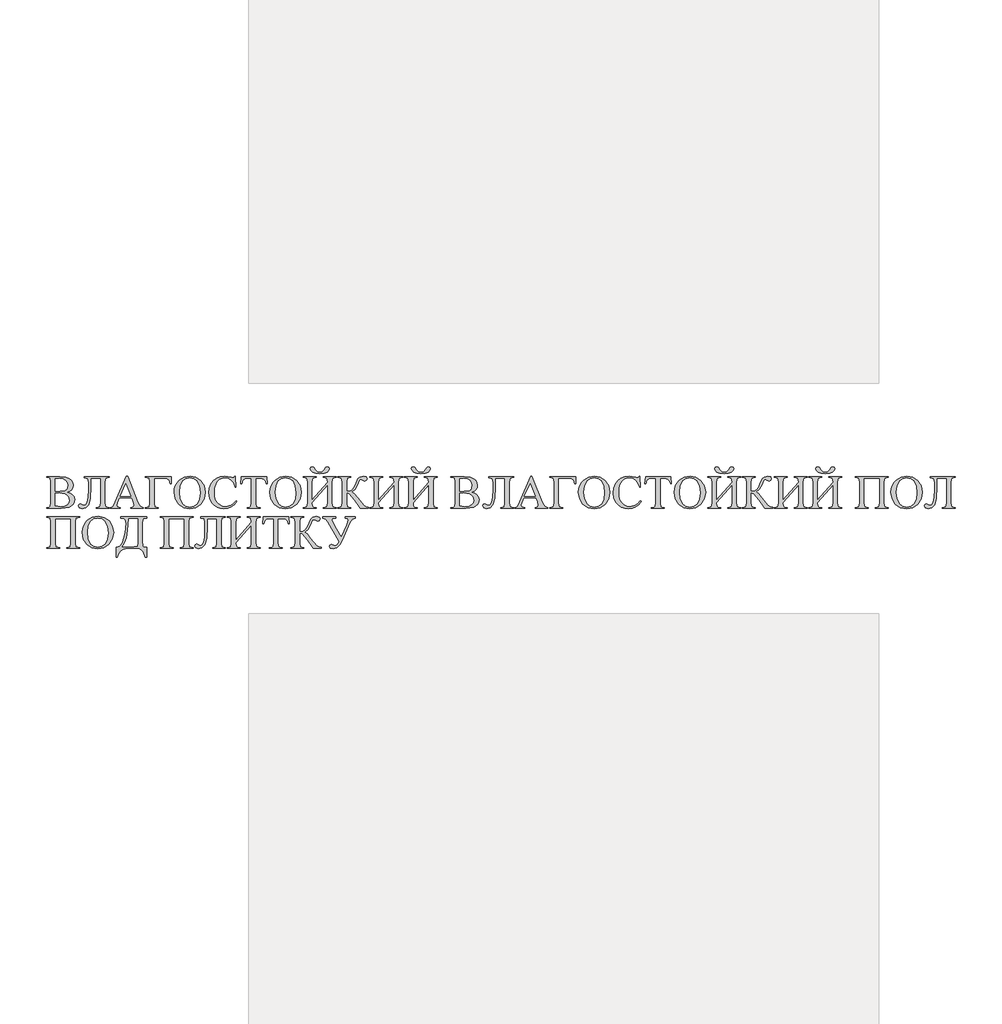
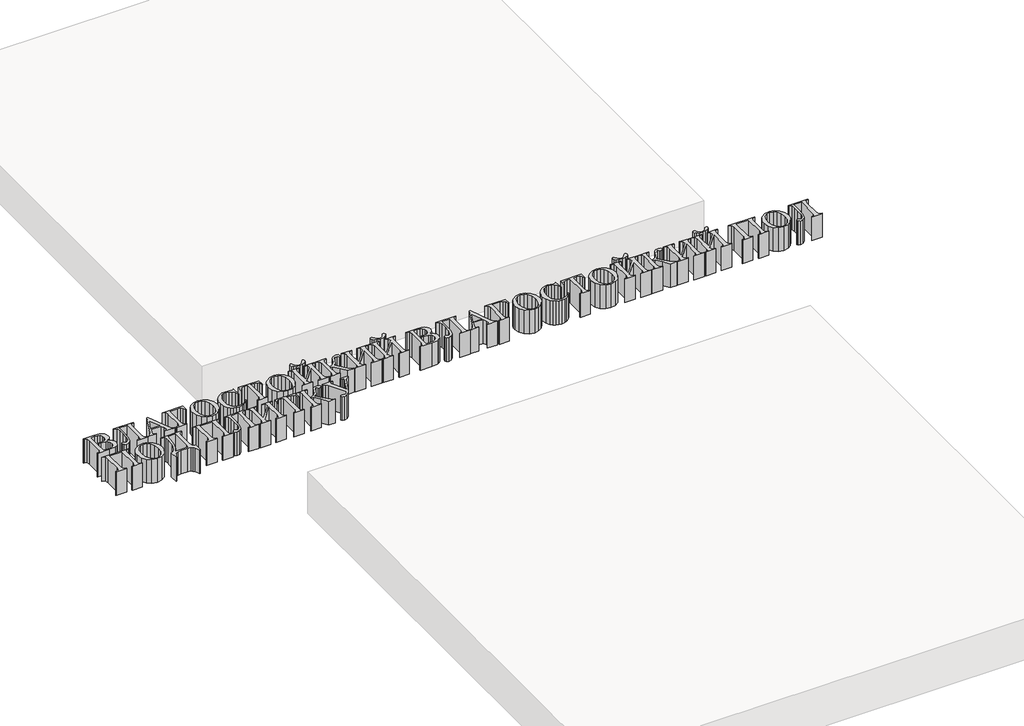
# One storey, part 7 of 17: 1 proxy.
"""IFC4 building model written with IfcOpenShell, lengths in millimetres."""

from ifc_helpers import new_model, si_unit, origin, origin_with_axes, place, context, project, spatial, polyline, outline, extrude, element, save

model = new_model("IFC4")

# Units and contexts
model_context = context("Model", 3, world=origin())
ifc_project = project(units=[si_unit("LENGTHUNIT", "METRE", prefix="MILLI")], contexts=[model_context])

# Site, building, storey
site = spatial("IfcSite", under=ifc_project)
building = spatial("IfcBuilding", under=site)
storey = spatial("IfcBuildingStorey", under=building, Name="Уровень 1", Elevation=0.0)

# Proxy
placement = place(None, origin())
element("IfcBuildingElementProxy", 1, Name="SG_Текст 2", ObjectType="SG_Текст 2", at=placement, inside=storey, context=model_context, shape_type="SweptSolid", body=[
    extrude(outline(polyline([(-8176.1512491, 9348.2843644), (-8162.4340903, 9344.0404927), (-8152.6591062, 9337.8255337), (-8144.5434558, 9326.6929129), (-8141.838239, 9313.327734), (-8143.5931101, 9302.5722345), (-8148.8577235, 9292.2692805), (-8157.1795336, 9283.5552643), (-8168.1059947, 9277.5665781), (-8205.4762015, 9272.9405568), (-8275.7112726, 9272.9405568), (-8275.7112726, 9275.5150382), (-8270.3611784, 9275.5150382), (-8262.688017, 9277.0536931), (-8257.5289976, 9281.6696578), (-8255.1154213, 9298.6853709), (-8255.1154213, 9396.5156647), (-8258.1726179, 9414.6577134), (-8270.3611784, 9419.6859974), (-8275.7112726, 9419.6859974), (-8275.7112726, 9422.2604788), (-8211.8319525, 9422.2604788), (-8183.1506205, 9419.6055449), (-8168.7194454, 9414.0392345), (-8158.1701055, 9405.3855577), (-8151.7137888, 9394.4188702), (-8149.5616833, 9381.9135279), (-8151.2461584, 9371.1630567), (-8156.2995838, 9361.5992605), (-8164.6314505, 9353.7853071), (-8176.1512491, 9348.2843644)]), holes=[polyline([(-8234.5195699, 9354.3183052), (-8225.1066223, 9353.1517434), (-8213.4812296, 9352.7494806), (-8189.0035431, 9356.2491663), (-8182.1751334, 9360.6740562), (-8178.0619971, 9366.9493547), (-8175.3064974, 9382.7180534), (-8177.8709223, 9394.9418118), (-8185.5641968, 9405.2246526), (-8198.1751331, 9412.2089391), (-8215.4925432, 9414.5370346), (-8234.5195699, 9412.083232), (-8234.5195699, 9354.3183052)]), polyline([(-8234.5195699, 9283.6005189), (-8208.9758872, 9280.664001), (-8191.18079, 9282.8814743), (-8178.1826759, 9289.533894), (-8170.2329588, 9299.4446418), (-8167.5830532, 9311.4370992), (-8172.430319, 9327.9499839), (-8178.7659568, 9335.0499209), (-8188.0783388, 9340.4603545), (-8214.8086966, 9345.0260364), (-8226.6151075, 9344.8047919), (-8234.5195699, 9344.0606059), (-8234.5195699, 9283.6005189)])]), origin_with_axes(), (0.0, 0.0, 1.0), 150.0),
    extrude(outline(polyline([(-8018.2631311, 9414.5370346), (-8064.6037966, 9414.5370346), (-8064.6037966, 9372.3396751), (-8067.3894659, 9319.6684001), (-8075.746474, 9289.4132152), (-8089.0010306, 9275.1278603), (-8106.4793459, 9270.3660754), (-8119.3115267, 9274.3484763), (-8123.8168691, 9283.6005189), (-8120.9205775, 9290.5797771), (-8113.8809799, 9293.5364081), (-8105.9564043, 9289.8758173), (-8096.9054931, 9285.8129639), (-8088.0707981, 9289.8104497), (-8081.0362287, 9301.802907), (-8076.4353489, 9324.9480983), (-8074.9017223, 9362.4037859), (-8074.9017223, 9393.8607307), (-8078.5824261, 9412.6866261), (-8095.4975736, 9417.111516), (-8095.4975736, 9422.2604788), (-7977.0714285, 9422.2604788), (-7977.0714285, 9419.6859974), (-7993.9865759, 9415.2812206), (-7997.6672798, 9396.5156647), (-7997.6672798, 9298.6853709), (-7993.9865759, 9279.919815), (-7977.0714285, 9275.5150382), (-7977.0714285, 9272.9405568), (-8038.8589824, 9272.9405568), (-8038.8589824, 9275.5150382), (-8021.943835, 9279.919815), (-8018.2631311, 9298.6853709), (-8018.2631311, 9414.5370346)])), origin_with_axes(), (0.0, 0.0, 1.0), 150.0),
    extrude(outline(polyline([(-7870.5924863, 9321.8557037), (-7928.8401283, 9321.8557037), (-7938.4542073, 9299.4898964), (-7942.1952506, 9285.5716062), (-7938.9369226, 9279.1354027), (-7924.8577273, 9275.5150382), (-7924.8577273, 9272.9405568), (-7972.3247284, 9272.9405568), (-7972.3247284, 9275.5150382), (-7960.1763942, 9280.1812858), (-7947.6660236, 9303.5527499), (-7895.2914173, 9424.8349602), (-7889.780418, 9424.8349602), (-7840.6239135, 9301.5816625), (-7829.159426, 9280.8651324), (-7814.8388731, 9275.5150382), (-7814.8388731, 9272.9405568), (-7873.8508143, 9272.9405568), (-7873.8508143, 9275.5150382), (-7861.7628195, 9278.8337057), (-7858.6050572, 9285.7325113), (-7863.0299471, 9302.8689032), (-7870.5924863, 9321.8557037)]), holes=[polyline([(-7873.6899092, 9329.5791479), (-7898.5497454, 9390.20014), (-7925.5013477, 9329.5791479), (-7873.6899092, 9329.5791479)])]), origin_with_axes(), (0.0, 0.0, 1.0), 150.0),
    extrude(outline(polyline([(-7681.6496862, 9422.2604788), (-7681.0060658, 9388.7922204), (-7686.1550287, 9388.7922204), (-7690.9218419, 9405.1039738), (-7701.4007858, 9412.8877574), (-7719.3417032, 9414.5370346), (-7763.3894711, 9414.5370346), (-7763.3894711, 9298.6853709), (-7759.7288803, 9279.919815), (-7742.7936198, 9275.5150382), (-7742.7936198, 9272.9405568), (-7804.5811737, 9272.9405568), (-7804.5811737, 9275.5150382), (-7787.6660263, 9279.919815), (-7783.9853224, 9298.6853709), (-7783.9853224, 9396.5156647), (-7787.6660263, 9415.2812206), (-7804.5811737, 9419.6859974), (-7804.5811737, 9422.2604788), (-7681.6496862, 9422.2604788)])), origin_with_axes(), (0.0, 0.0, 1.0), 150.0),
    extrude(outline(polyline([(-7592.025552, 9424.8349602), (-7564.319707, 9419.3742438), (-7540.5761499, 9402.9920945), (-7524.25434, 9378.4440119), (-7518.8137367, 9348.4854958), (-7524.2945663, 9317.6771996), (-7540.737055, 9292.5910907), (-7564.9633274, 9275.9223292), (-7593.7955079, 9270.3660754), (-7622.7735087, 9275.7865655), (-7646.7131689, 9292.048036), (-7662.7785363, 9316.9179288), (-7668.1336588, 9348.1636856), (-7666.5874614, 9364.9355269), (-7661.9488694, 9380.0932891), (-7654.2178828, 9393.6369721), (-7643.3945014, 9405.5665759), (-7619.8118494, 9420.0178642), (-7592.025552, 9424.8349602)]), holes=[polyline([(-7594.1575444, 9417.111516), (-7612.6012901, 9413.4308121), (-7626.9821824, 9402.3887004), (-7638.5371791, 9379.7915921), (-7642.3888446, 9348.6866272), (-7638.3963871, 9316.6464014), (-7626.4190146, 9292.933014), (-7612.1889708, 9281.8003932), (-7594.0368656, 9278.0895196), (-7574.4265579, 9282.1523731), (-7558.5572936, 9294.3409335), (-7548.0582365, 9315.2887647), (-7544.5585509, 9345.6294305), (-7548.4102164, 9378.7758787), (-7559.9652131, 9402.2680216), (-7574.6880287, 9413.4006424), (-7594.1575444, 9417.111516)])]), origin_with_axes(), (0.0, 0.0, 1.0), 150.0),
    extrude(outline(polyline([(-7377.2172589, 9424.8349602), (-7374.6427775, 9373.345332), (-7377.2172589, 9373.345332), (-7385.327881, 9393.3729872), (-7396.304625, 9406.8739297), (-7409.9463596, 9414.5521194), (-7426.0519533, 9417.111516), (-7439.9149323, 9415.2560792), (-7452.3800484, 9409.6897688), (-7462.8891619, 9400.0555766), (-7470.8841335, 9385.9964945), (-7475.937559, 9367.7387953), (-7477.6220341, 9345.5087517), (-7476.0180115, 9326.8839877), (-7471.2059437, 9310.9141577), (-7463.1657176, 9297.9814112), (-7451.87722, 9288.4678978), (-7438.0594955, 9282.6149752), (-7422.4315888, 9280.664001), (-7397.0689242, 9286.3560185), (-7385.5290124, 9294.8588468), (-7372.9130478, 9308.9832966), (-7369.4938147, 9306.4088152), (-7381.6069509, 9290.2127124), (-7395.5805522, 9279.034837), (-7411.8872772, 9272.5332658), (-7430.9997847, 9270.3660754), (-7448.4403878, 9272.0681495), (-7463.7942531, 9277.1743719), (-7477.0613804, 9285.6847426), (-7488.2417699, 9297.5992616), (-7499.5855787, 9319.6633718), (-7503.3668482, 9345.3076203), (-7500.8677911, 9366.5320071), (-7493.3706196, 9385.9562683), (-7481.4887845, 9402.3937287), (-7465.8357364, 9414.6577134), (-7447.4824997, 9422.2906485), (-7427.5000991, 9424.8349602), (-7395.6408916, 9418.9216982), (-7389.0437829, 9417.111516), (-7383.8545938, 9418.6803406), (-7379.7917404, 9424.8349602), (-7377.2172589, 9424.8349602)])), origin_with_axes(), (0.0, 0.0, 1.0), 150.0),
    extrude(outline(polyline([(-7227.8973369, 9422.2604788), (-7225.3228555, 9388.7922204), (-7229.5063878, 9388.7922204), (-7232.9256209, 9402.0668902), (-7242.2782292, 9411.499951), (-7257.7050045, 9414.5370346), (-7279.3869652, 9414.5370346), (-7279.3869652, 9298.6853709), (-7276.4906736, 9280.4226434), (-7263.8596242, 9275.5150382), (-7258.7911139, 9275.5150382), (-7258.7911139, 9272.9405568), (-7320.5786678, 9272.9405568), (-7320.5786678, 9275.5150382), (-7315.429705, 9275.5150382), (-7307.5554122, 9277.03358), (-7302.3561666, 9281.5892053), (-7299.9828165, 9298.6853709), (-7299.9828165, 9414.5370346), (-7317.8432813, 9414.5370346), (-7332.6465494, 9413.0084362), (-7342.4215336, 9404.9430687), (-7347.2486862, 9388.7922204), (-7351.4724448, 9388.7922204), (-7348.8979634, 9422.2604788), (-7227.8973369, 9422.2604788)])), origin_with_axes(), (0.0, 0.0, 1.0), 150.0),
    extrude(outline(polyline([(-7136.3423416, 9424.8349602), (-7108.6364967, 9419.3742438), (-7084.8929396, 9402.9920945), (-7068.5711297, 9378.4440119), (-7063.1305264, 9348.4854958), (-7068.6113559, 9317.6771996), (-7085.0538447, 9292.5910907), (-7109.280117, 9275.9223292), (-7138.1122976, 9270.3660754), (-7167.0902983, 9275.7865655), (-7191.0299585, 9292.048036), (-7207.0953259, 9316.9179288), (-7212.4504484, 9348.1636856), (-7210.9042511, 9364.9355269), (-7206.2656591, 9380.0932891), (-7198.5346724, 9393.6369721), (-7187.7112911, 9405.5665759), (-7164.1286391, 9420.0178642), (-7136.3423416, 9424.8349602)]), holes=[polyline([(-7138.474334, 9417.111516), (-7156.9180798, 9413.4308121), (-7171.2989721, 9402.3887004), (-7182.8539687, 9379.7915921), (-7186.7056343, 9348.6866272), (-7182.7131768, 9316.6464014), (-7170.7358042, 9292.933014), (-7156.5057605, 9281.8003932), (-7138.3536552, 9278.0895196), (-7118.7433476, 9282.1523731), (-7102.8740832, 9294.3409335), (-7092.3750262, 9315.2887647), (-7088.8753405, 9345.6294305), (-7092.7270061, 9378.7758787), (-7104.2820027, 9402.2680216), (-7119.0048183, 9413.4006424), (-7138.474334, 9417.111516)])]), origin_with_axes(), (0.0, 0.0, 1.0), 150.0),
    extrude(outline(polyline([(-6938.1877252, 9471.1756257), (-6931.8923136, 9468.2793341), (-6929.2574928, 9461.4408679), (-6931.9576813, 9452.3899566), (-6940.0582469, 9444.7067387), (-6954.0217916, 9439.4572101), (-6974.3109176, 9437.7073673), (-6994.6754678, 9439.4572101), (-7008.6239277, 9444.7067387), (-7016.6792387, 9452.3899566), (-7019.3643423, 9461.4408679), (-7016.7898609, 9468.2189947), (-7010.3134311, 9471.1756257), (-7003.6962093, 9468.4201261), (-6995.9124257, 9456.2516788), (-6986.9922499, 9446.2051673), (-6974.3109176, 9442.8563301), (-6961.6899247, 9446.2051673), (-6952.7094095, 9456.2516788), (-6945.106644, 9468.4804655), (-6938.1877252, 9471.1756257)])), origin_with_axes(), (0.0, 0.0, 1.0), 150.0),
    extrude(outline(polyline([(-6936.9809371, 9396.5156647), (-6941.0639037, 9415.6633702), (-6957.5767884, 9419.6859974), (-6957.5767884, 9422.2604788), (-6895.7892344, 9422.2604788), (-6895.7892344, 9419.6859974), (-6912.7043819, 9415.2812206), (-6916.3850857, 9396.5156647), (-6916.3850857, 9298.6853709), (-6912.7043819, 9279.919815), (-6895.7892344, 9275.5150382), (-6895.7892344, 9272.9405568), (-6957.5767884, 9272.9405568), (-6957.5767884, 9275.5150382), (-6940.6013016, 9279.9801544), (-6936.9809371, 9298.6853709), (-6936.9809371, 9383.6432576), (-7011.6408981, 9298.6853709), (-7010.4341099, 9283.8619897), (-7005.3253734, 9277.9286145), (-6991.0450468, 9275.5150382), (-6991.0450468, 9272.9405568), (-7052.8326007, 9272.9405568), (-7052.8326007, 9275.5150382), (-7035.9174533, 9279.919815), (-7032.2367494, 9298.6853709), (-7032.2367494, 9396.5156647), (-7035.9174533, 9415.2812206), (-7052.8326007, 9419.6859974), (-7052.8326007, 9422.2604788), (-6991.0450468, 9422.2604788), (-6991.0450468, 9419.6859974), (-7007.9803073, 9415.2812206), (-7011.6408981, 9396.5156647), (-7011.6408981, 9311.557778), (-6936.9809371, 9396.5156647)])), origin_with_axes(), (0.0, 0.0, 1.0), 150.0),
    extrude(outline(polyline([(-6742.6880428, 9277.0436365), (-6742.6880428, 9272.9405568), (-6781.6673005, 9272.9405568), (-6808.4579977, 9310.7733657), (-6833.3580601, 9341.7475952), (-6846.8740876, 9345.0260364), (-6846.8740876, 9298.6853709), (-6843.2537231, 9279.919815), (-6826.2782362, 9275.5150382), (-6826.2782362, 9272.9405568), (-6888.0657902, 9272.9405568), (-6888.0657902, 9275.5150382), (-6871.190869, 9279.8795887), (-6867.4699389, 9298.6853709), (-6867.4699389, 9396.5156647), (-6871.1506428, 9415.2812206), (-6888.0657902, 9419.6859974), (-6888.0657902, 9422.2604788), (-6826.2782362, 9422.2604788), (-6826.2782362, 9419.6859974), (-6843.2537231, 9415.2812206), (-6846.8740876, 9396.5156647), (-6846.8740876, 9352.7494806), (-6829.9991664, 9354.3786447), (-6819.4598831, 9361.2975635), (-6810.1877274, 9372.9430692), (-6801.4184001, 9393.458468), (-6793.2122406, 9412.083232), (-6782.9947675, 9421.0738038), (-6766.2606383, 9424.8349602), (-6753.3480049, 9421.7375373), (-6749.0437938, 9412.4452684), (-6752.4429138, 9404.8827293), (-6760.2266975, 9401.6646275), (-6770.7257545, 9405.727481), (-6779.7364394, 9409.3880718), (-6785.8910591, 9405.6470284), (-6794.0569923, 9386.5797755), (-6806.2455527, 9363.1982548), (-6821.4108573, 9350.2554518), (-6810.7106689, 9341.4660113), (-6794.7810652, 9321.6947986), (-6765.6974705, 9286.134774), (-6755.2386397, 9279.4572129), (-6742.6880428, 9277.0436365)])), origin_with_axes(), (0.0, 0.0, 1.0), 150.0),
    extrude(outline(polyline([(-6620.3197231, 9396.5156647), (-6624.4026897, 9415.6633702), (-6640.9155744, 9419.6859974), (-6640.9155744, 9422.2604788), (-6579.1280205, 9422.2604788), (-6579.1280205, 9419.6859974), (-6596.0431679, 9415.2812206), (-6599.7238718, 9396.5156647), (-6599.7238718, 9298.6853709), (-6596.0431679, 9279.919815), (-6579.1280205, 9275.5150382), (-6579.1280205, 9272.9405568), (-6640.9155744, 9272.9405568), (-6640.9155744, 9275.5150382), (-6623.9400876, 9279.9801544), (-6620.3197231, 9298.6853709), (-6620.3197231, 9383.6432576), (-6694.9796841, 9298.6853709), (-6693.7728959, 9283.8619897), (-6688.6641594, 9277.9286145), (-6674.3838328, 9275.5150382), (-6674.3838328, 9272.9405568), (-6736.1713867, 9272.9405568), (-6736.1713867, 9275.5150382), (-6719.2562393, 9279.919815), (-6715.5755354, 9298.6853709), (-6715.5755354, 9396.5156647), (-6719.2562393, 9415.2812206), (-6736.1713867, 9419.6859974), (-6736.1713867, 9422.2604788), (-6674.3838328, 9422.2604788), (-6674.3838328, 9419.6859974), (-6691.3190933, 9415.2812206), (-6694.9796841, 9396.5156647), (-6694.9796841, 9311.557778), (-6620.3197231, 9396.5156647)])), origin_with_axes(), (0.0, 0.0, 1.0), 150.0),
    extrude(outline(polyline([(-6456.7597007, 9471.1756257), (-6450.4642891, 9468.2793341), (-6447.8294683, 9461.4408679), (-6450.5296568, 9452.3899566), (-6458.6302224, 9444.7067387), (-6472.5937671, 9439.4572101), (-6492.8828931, 9437.7073673), (-6513.2474433, 9439.4572101), (-6527.1959032, 9444.7067387), (-6535.2512142, 9452.3899566), (-6537.9363178, 9461.4408679), (-6535.3618364, 9468.2189947), (-6528.8854066, 9471.1756257), (-6522.2681848, 9468.4201261), (-6514.4844012, 9456.2516788), (-6505.5642254, 9446.2051673), (-6492.8828931, 9442.8563301), (-6480.2619002, 9446.2051673), (-6471.281385, 9456.2516788), (-6463.6786195, 9468.4804655), (-6456.7597007, 9471.1756257)])), origin_with_axes(), (0.0, 0.0, 1.0), 150.0),
    extrude(outline(polyline([(-6455.5529126, 9396.5156647), (-6459.6358792, 9415.6633702), (-6476.1487639, 9419.6859974), (-6476.1487639, 9422.2604788), (-6414.3612099, 9422.2604788), (-6414.3612099, 9419.6859974), (-6431.2763573, 9415.2812206), (-6434.9570612, 9396.5156647), (-6434.9570612, 9298.6853709), (-6431.2763573, 9279.919815), (-6414.3612099, 9275.5150382), (-6414.3612099, 9272.9405568), (-6476.1487639, 9272.9405568), (-6476.1487639, 9275.5150382), (-6459.1732771, 9279.9801544), (-6455.5529126, 9298.6853709), (-6455.5529126, 9383.6432576), (-6530.2128736, 9298.6853709), (-6529.0060854, 9283.8619897), (-6523.8973489, 9277.9286145), (-6509.6170223, 9275.5150382), (-6509.6170223, 9272.9405568), (-6571.4045762, 9272.9405568), (-6571.4045762, 9275.5150382), (-6554.4894288, 9279.919815), (-6550.8087249, 9298.6853709), (-6550.8087249, 9396.5156647), (-6554.4894288, 9415.2812206), (-6571.4045762, 9419.6859974), (-6571.4045762, 9422.2604788), (-6509.6170223, 9422.2604788), (-6509.6170223, 9419.6859974), (-6526.5522828, 9415.2812206), (-6530.2128736, 9396.5156647), (-6530.2128736, 9311.557778), (-6455.5529126, 9396.5156647)])), origin_with_axes(), (0.0, 0.0, 1.0), 150.0),
    extrude(outline(polyline([(-6250.4391511, 9348.2843644), (-6236.7219923, 9344.0404927), (-6226.9470082, 9337.8255337), (-6218.8313578, 9326.6929129), (-6216.126141, 9313.327734), (-6217.8810121, 9302.5722345), (-6223.1456255, 9292.2692805), (-6231.4674355, 9283.5552643), (-6242.3938967, 9277.5665781), (-6279.7641035, 9272.9405568), (-6349.9991746, 9272.9405568), (-6349.9991746, 9275.5150382), (-6344.6490804, 9275.5150382), (-6336.975919, 9277.0536931), (-6331.8168996, 9281.6696578), (-6329.4033233, 9298.6853709), (-6329.4033233, 9396.5156647), (-6332.4605199, 9414.6577134), (-6344.6490804, 9419.6859974), (-6349.9991746, 9419.6859974), (-6349.9991746, 9422.2604788), (-6286.1198545, 9422.2604788), (-6257.4385225, 9419.6055449), (-6243.0073474, 9414.0392345), (-6232.4580075, 9405.3855577), (-6226.0016908, 9394.4188702), (-6223.8495853, 9381.9135279), (-6225.5340604, 9371.1630567), (-6230.5874858, 9361.5992605), (-6238.9193524, 9353.7853071), (-6250.4391511, 9348.2843644)]), holes=[polyline([(-6308.8074719, 9354.3183052), (-6299.3945243, 9353.1517434), (-6287.7691316, 9352.7494806), (-6263.2914451, 9356.2491663), (-6256.4630354, 9360.6740562), (-6252.349899, 9366.9493547), (-6249.5943994, 9382.7180534), (-6252.1588243, 9394.9418118), (-6259.8520988, 9405.2246526), (-6272.4630351, 9412.2089391), (-6289.7804452, 9414.5370346), (-6308.8074719, 9412.083232), (-6308.8074719, 9354.3183052)]), polyline([(-6308.8074719, 9283.6005189), (-6283.2637892, 9280.664001), (-6265.468692, 9282.8814743), (-6252.4705779, 9289.533894), (-6244.5208608, 9299.4446418), (-6241.8709552, 9311.4370992), (-6246.718221, 9327.9499839), (-6253.0538588, 9335.0499209), (-6262.3662408, 9340.4603545), (-6289.0965986, 9345.0260364), (-6300.9030095, 9344.8047919), (-6308.8074719, 9344.0606059), (-6308.8074719, 9283.6005189)])]), origin_with_axes(), (0.0, 0.0, 1.0), 150.0),
    extrude(outline(polyline([(-6092.5510331, 9414.5370346), (-6138.8916986, 9414.5370346), (-6138.8916986, 9372.3396751), (-6141.6773679, 9319.6684001), (-6150.034376, 9289.4132152), (-6163.2889326, 9275.1278603), (-6180.7672478, 9270.3660754), (-6193.5994286, 9274.3484763), (-6198.1047711, 9283.6005189), (-6195.2084795, 9290.5797771), (-6188.1688819, 9293.5364081), (-6180.2443063, 9289.8758173), (-6171.1933951, 9285.8129639), (-6162.3587001, 9289.8104497), (-6155.3241307, 9301.802907), (-6150.7232509, 9324.9480983), (-6149.1896242, 9362.4037859), (-6149.1896242, 9393.8607307), (-6152.8703281, 9412.6866261), (-6169.7854756, 9417.111516), (-6169.7854756, 9422.2604788), (-6051.3593305, 9422.2604788), (-6051.3593305, 9419.6859974), (-6068.2744779, 9415.2812206), (-6071.9551818, 9396.5156647), (-6071.9551818, 9298.6853709), (-6068.2744779, 9279.919815), (-6051.3593305, 9275.5150382), (-6051.3593305, 9272.9405568), (-6113.1468844, 9272.9405568), (-6113.1468844, 9275.5150382), (-6096.231737, 9279.919815), (-6092.5510331, 9298.6853709), (-6092.5510331, 9414.5370346)])), origin_with_axes(), (0.0, 0.0, 1.0), 150.0),
    extrude(outline(polyline([(-5944.8803882, 9321.8557037), (-6003.1280302, 9321.8557037), (-6012.7421093, 9299.4898964), (-6016.4831526, 9285.5716062), (-6013.2248245, 9279.1354027), (-5999.1456293, 9275.5150382), (-5999.1456293, 9272.9405568), (-6046.6126304, 9272.9405568), (-6046.6126304, 9275.5150382), (-6034.4642962, 9280.1812858), (-6021.9539256, 9303.5527499), (-5969.5793193, 9424.8349602), (-5964.06832, 9424.8349602), (-5914.9118155, 9301.5816625), (-5903.447328, 9280.8651324), (-5889.1267751, 9275.5150382), (-5889.1267751, 9272.9405568), (-5948.1387163, 9272.9405568), (-5948.1387163, 9275.5150382), (-5936.0507215, 9278.8337057), (-5932.8929592, 9285.7325113), (-5937.3178491, 9302.8689032), (-5944.8803882, 9321.8557037)]), holes=[polyline([(-5947.9778112, 9329.5791479), (-5972.8376474, 9390.20014), (-5999.7892497, 9329.5791479), (-5947.9778112, 9329.5791479)])]), origin_with_axes(), (0.0, 0.0, 1.0), 150.0),
    extrude(outline(polyline([(-5755.9375882, 9422.2604788), (-5755.2939678, 9388.7922204), (-5760.4429307, 9388.7922204), (-5765.2097439, 9405.1039738), (-5775.6886878, 9412.8877574), (-5793.6296051, 9414.5370346), (-5837.6773731, 9414.5370346), (-5837.6773731, 9298.6853709), (-5834.0167823, 9279.919815), (-5817.0815218, 9275.5150382), (-5817.0815218, 9272.9405568), (-5878.8690757, 9272.9405568), (-5878.8690757, 9275.5150382), (-5861.9539283, 9279.919815), (-5858.2732244, 9298.6853709), (-5858.2732244, 9396.5156647), (-5861.9539283, 9415.2812206), (-5878.8690757, 9419.6859974), (-5878.8690757, 9422.2604788), (-5755.9375882, 9422.2604788)])), origin_with_axes(), (0.0, 0.0, 1.0), 150.0),
    extrude(outline(polyline([(-5666.3134539, 9424.8349602), (-5638.607609, 9419.3742438), (-5614.8640519, 9402.9920945), (-5598.542242, 9378.4440119), (-5593.1016387, 9348.4854958), (-5598.5824683, 9317.6771996), (-5615.024957, 9292.5910907), (-5639.2512294, 9275.9223292), (-5668.0834099, 9270.3660754), (-5697.0614107, 9275.7865655), (-5721.0010709, 9292.048036), (-5737.0664383, 9316.9179288), (-5742.4215608, 9348.1636856), (-5740.8753634, 9364.9355269), (-5736.2367714, 9380.0932891), (-5728.5057848, 9393.6369721), (-5717.6824034, 9405.5665759), (-5694.0997514, 9420.0178642), (-5666.3134539, 9424.8349602)]), holes=[polyline([(-5668.4454464, 9417.111516), (-5686.8891921, 9413.4308121), (-5701.2700844, 9402.3887004), (-5712.8250811, 9379.7915921), (-5716.6767466, 9348.6866272), (-5712.6842891, 9316.6464014), (-5700.7069166, 9292.933014), (-5686.4768728, 9281.8003932), (-5668.3247676, 9278.0895196), (-5648.7144599, 9282.1523731), (-5632.8451956, 9294.3409335), (-5622.3461385, 9315.2887647), (-5618.8464529, 9345.6294305), (-5622.6981184, 9378.7758787), (-5634.2531151, 9402.2680216), (-5648.9759307, 9413.4006424), (-5668.4454464, 9417.111516)])]), origin_with_axes(), (0.0, 0.0, 1.0), 150.0),
    extrude(outline(polyline([(-5451.5051609, 9424.8349602), (-5448.9306795, 9373.345332), (-5451.5051609, 9373.345332), (-5459.615783, 9393.3729872), (-5470.592527, 9406.8739297), (-5484.2342616, 9414.5521194), (-5500.3398553, 9417.111516), (-5514.2028343, 9415.2560792), (-5526.6679503, 9409.6897688), (-5537.1770639, 9400.0555766), (-5545.1720355, 9385.9964945), (-5550.2254609, 9367.7387953), (-5551.9099361, 9345.5087517), (-5550.3059135, 9326.8839877), (-5545.4938457, 9310.9141577), (-5537.4536196, 9297.9814112), (-5526.1651219, 9288.4678978), (-5512.3473975, 9282.6149752), (-5496.7194908, 9280.664001), (-5471.3568262, 9286.3560185), (-5459.8169144, 9294.8588468), (-5447.2009498, 9308.9832966), (-5443.7817167, 9306.4088152), (-5455.8948529, 9290.2127124), (-5469.8684541, 9279.034837), (-5486.1751792, 9272.5332658), (-5505.2876867, 9270.3660754), (-5522.7282898, 9272.0681495), (-5538.0821551, 9277.1743719), (-5551.3492824, 9285.6847426), (-5562.5296719, 9297.5992616), (-5573.8734807, 9319.6633718), (-5577.6547502, 9345.3076203), (-5575.1556931, 9366.5320071), (-5567.6585216, 9385.9562683), (-5555.7766865, 9402.3937287), (-5540.1236384, 9414.6577134), (-5521.7704017, 9422.2906485), (-5501.7880011, 9424.8349602), (-5469.9287935, 9418.9216982), (-5463.3316849, 9417.111516), (-5458.1424958, 9418.6803406), (-5454.0796423, 9424.8349602), (-5451.5051609, 9424.8349602)])), origin_with_axes(), (0.0, 0.0, 1.0), 150.0),
    extrude(outline(polyline([(-5302.1852389, 9422.2604788), (-5299.6107575, 9388.7922204), (-5303.7942898, 9388.7922204), (-5307.2135229, 9402.0668902), (-5316.5661312, 9411.499951), (-5331.9929065, 9414.5370346), (-5353.6748672, 9414.5370346), (-5353.6748672, 9298.6853709), (-5350.7785756, 9280.4226434), (-5338.1475261, 9275.5150382), (-5333.0790159, 9275.5150382), (-5333.0790159, 9272.9405568), (-5394.8665698, 9272.9405568), (-5394.8665698, 9275.5150382), (-5389.717607, 9275.5150382), (-5381.8433142, 9277.03358), (-5376.6440685, 9281.5892053), (-5374.2707185, 9298.6853709), (-5374.2707185, 9414.5370346), (-5392.1311833, 9414.5370346), (-5406.9344514, 9413.0084362), (-5416.7094356, 9404.9430687), (-5421.5365882, 9388.7922204), (-5425.7603468, 9388.7922204), (-5423.1858654, 9422.2604788), (-5302.1852389, 9422.2604788)])), origin_with_axes(), (0.0, 0.0, 1.0), 150.0),
    extrude(outline(polyline([(-5210.6302436, 9424.8349602), (-5182.9243987, 9419.3742438), (-5159.1808416, 9402.9920945), (-5142.8590317, 9378.4440119), (-5137.4184284, 9348.4854958), (-5142.8992579, 9317.6771996), (-5159.3417467, 9292.5910907), (-5183.568019, 9275.9223292), (-5212.4001996, 9270.3660754), (-5241.3782003, 9275.7865655), (-5265.3178605, 9292.048036), (-5281.3832279, 9316.9179288), (-5286.7383504, 9348.1636856), (-5285.1921531, 9364.9355269), (-5280.5535611, 9380.0932891), (-5272.8225744, 9393.6369721), (-5261.9991931, 9405.5665759), (-5238.416541, 9420.0178642), (-5210.6302436, 9424.8349602)]), holes=[polyline([(-5212.762236, 9417.111516), (-5231.2059818, 9413.4308121), (-5245.586874, 9402.3887004), (-5257.1418707, 9379.7915921), (-5260.9935363, 9348.6866272), (-5257.0010788, 9316.6464014), (-5245.0237062, 9292.933014), (-5230.7936625, 9281.8003932), (-5212.6415572, 9278.0895196), (-5193.0312495, 9282.1523731), (-5177.1619852, 9294.3409335), (-5166.6629282, 9315.2887647), (-5163.1632425, 9345.6294305), (-5167.0149081, 9378.7758787), (-5178.5699047, 9402.2680216), (-5193.2927203, 9413.4006424), (-5212.762236, 9417.111516)])]), origin_with_axes(), (0.0, 0.0, 1.0), 150.0),
    extrude(outline(polyline([(-5012.4756272, 9471.1756257), (-5006.1802156, 9468.2793341), (-5003.5453948, 9461.4408679), (-5006.2455833, 9452.3899566), (-5014.3461489, 9444.7067387), (-5028.3096936, 9439.4572101), (-5048.5988196, 9437.7073673), (-5068.9633698, 9439.4572101), (-5082.9118297, 9444.7067387), (-5090.9671407, 9452.3899566), (-5093.6522443, 9461.4408679), (-5091.0777629, 9468.2189947), (-5084.6013331, 9471.1756257), (-5077.9841113, 9468.4201261), (-5070.2003277, 9456.2516788), (-5061.2801518, 9446.2051673), (-5048.5988196, 9442.8563301), (-5035.9778267, 9446.2051673), (-5026.9973114, 9456.2516788), (-5019.394546, 9468.4804655), (-5012.4756272, 9471.1756257)])), origin_with_axes(), (0.0, 0.0, 1.0), 150.0),
    extrude(outline(polyline([(-5011.2688391, 9396.5156647), (-5015.3518057, 9415.6633702), (-5031.8646904, 9419.6859974), (-5031.8646904, 9422.2604788), (-4970.0771364, 9422.2604788), (-4970.0771364, 9419.6859974), (-4986.9922838, 9415.2812206), (-4990.6729877, 9396.5156647), (-4990.6729877, 9298.6853709), (-4986.9922838, 9279.919815), (-4970.0771364, 9275.5150382), (-4970.0771364, 9272.9405568), (-5031.8646904, 9272.9405568), (-5031.8646904, 9275.5150382), (-5014.8892035, 9279.9801544), (-5011.2688391, 9298.6853709), (-5011.2688391, 9383.6432576), (-5085.9288001, 9298.6853709), (-5084.7220119, 9283.8619897), (-5079.6132754, 9277.9286145), (-5065.3329488, 9275.5150382), (-5065.3329488, 9272.9405568), (-5127.1205027, 9272.9405568), (-5127.1205027, 9275.5150382), (-5110.2053553, 9279.919815), (-5106.5246514, 9298.6853709), (-5106.5246514, 9396.5156647), (-5110.2053553, 9415.2812206), (-5127.1205027, 9419.6859974), (-5127.1205027, 9422.2604788), (-5065.3329488, 9422.2604788), (-5065.3329488, 9419.6859974), (-5082.2682093, 9415.2812206), (-5085.9288001, 9396.5156647), (-5085.9288001, 9311.557778), (-5011.2688391, 9396.5156647)])), origin_with_axes(), (0.0, 0.0, 1.0), 150.0),
    extrude(outline(polyline([(-4816.9759448, 9277.0436365), (-4816.9759448, 9272.9405568), (-4855.9552025, 9272.9405568), (-4882.7458997, 9310.7733657), (-4907.6459621, 9341.7475952), (-4921.1619896, 9345.0260364), (-4921.1619896, 9298.6853709), (-4917.5416251, 9279.919815), (-4900.5661382, 9275.5150382), (-4900.5661382, 9272.9405568), (-4962.3536922, 9272.9405568), (-4962.3536922, 9275.5150382), (-4945.478771, 9279.8795887), (-4941.7578409, 9298.6853709), (-4941.7578409, 9396.5156647), (-4945.4385448, 9415.2812206), (-4962.3536922, 9419.6859974), (-4962.3536922, 9422.2604788), (-4900.5661382, 9422.2604788), (-4900.5661382, 9419.6859974), (-4917.5416251, 9415.2812206), (-4921.1619896, 9396.5156647), (-4921.1619896, 9352.7494806), (-4904.2870684, 9354.3786447), (-4893.7477851, 9361.2975635), (-4884.4756294, 9372.9430692), (-4875.7063021, 9393.458468), (-4867.5001426, 9412.083232), (-4857.2826695, 9421.0738038), (-4840.5485403, 9424.8349602), (-4827.6359069, 9421.7375373), (-4823.3316958, 9412.4452684), (-4826.7308158, 9404.8827293), (-4834.5145994, 9401.6646275), (-4845.0136565, 9405.727481), (-4854.0243414, 9409.3880718), (-4860.178961, 9405.6470284), (-4868.3448943, 9386.5797755), (-4880.5334547, 9363.1982548), (-4895.6987593, 9350.2554518), (-4884.9985709, 9341.4660113), (-4869.0689672, 9321.6947986), (-4839.9853725, 9286.134774), (-4829.5265417, 9279.4572129), (-4816.9759448, 9277.0436365)])), origin_with_axes(), (0.0, 0.0, 1.0), 150.0),
    extrude(outline(polyline([(-4694.6076251, 9396.5156647), (-4698.6905917, 9415.6633702), (-4715.2034764, 9419.6859974), (-4715.2034764, 9422.2604788), (-4653.4159224, 9422.2604788), (-4653.4159224, 9419.6859974), (-4670.3310699, 9415.2812206), (-4674.0117738, 9396.5156647), (-4674.0117738, 9298.6853709), (-4670.3310699, 9279.919815), (-4653.4159224, 9275.5150382), (-4653.4159224, 9272.9405568), (-4715.2034764, 9272.9405568), (-4715.2034764, 9275.5150382), (-4698.2279896, 9279.9801544), (-4694.6076251, 9298.6853709), (-4694.6076251, 9383.6432576), (-4769.2675861, 9298.6853709), (-4768.0607979, 9283.8619897), (-4762.9520614, 9277.9286145), (-4748.6717348, 9275.5150382), (-4748.6717348, 9272.9405568), (-4810.4592887, 9272.9405568), (-4810.4592887, 9275.5150382), (-4793.5441413, 9279.919815), (-4789.8634374, 9298.6853709), (-4789.8634374, 9396.5156647), (-4793.5441413, 9415.2812206), (-4810.4592887, 9419.6859974), (-4810.4592887, 9422.2604788), (-4748.6717348, 9422.2604788), (-4748.6717348, 9419.6859974), (-4765.6069953, 9415.2812206), (-4769.2675861, 9396.5156647), (-4769.2675861, 9311.557778), (-4694.6076251, 9396.5156647)])), origin_with_axes(), (0.0, 0.0, 1.0), 150.0),
    extrude(outline(polyline([(-4529.8408146, 9396.5156647), (-4533.9237812, 9415.6633702), (-4550.4366659, 9419.6859974), (-4550.4366659, 9422.2604788), (-4488.6491119, 9422.2604788), (-4488.6491119, 9419.6859974), (-4505.5642593, 9415.2812206), (-4509.2449632, 9396.5156647), (-4509.2449632, 9298.6853709), (-4505.5642593, 9279.919815), (-4488.6491119, 9275.5150382), (-4488.6491119, 9272.9405568), (-4550.4366659, 9272.9405568), (-4550.4366659, 9275.5150382), (-4533.461179, 9279.9801544), (-4529.8408146, 9298.6853709), (-4529.8408146, 9383.6432576), (-4604.5007756, 9298.6853709), (-4603.2939874, 9283.8619897), (-4598.1852509, 9277.9286145), (-4583.9049243, 9275.5150382), (-4583.9049243, 9272.9405568), (-4645.6924782, 9272.9405568), (-4645.6924782, 9275.5150382), (-4628.7773308, 9279.919815), (-4625.0966269, 9298.6853709), (-4625.0966269, 9396.5156647), (-4628.7773308, 9415.2812206), (-4645.6924782, 9419.6859974), (-4645.6924782, 9422.2604788), (-4583.9049243, 9422.2604788), (-4583.9049243, 9419.6859974), (-4600.8401848, 9415.2812206), (-4604.5007756, 9396.5156647), (-4604.5007756, 9311.557778), (-4529.8408146, 9396.5156647)])), origin_with_axes(), (0.0, 0.0, 1.0), 150.0),
    extrude(outline(polyline([(-4531.0476027, 9471.1756257), (-4524.7521911, 9468.2793341), (-4522.1173703, 9461.4408679), (-4524.8175588, 9452.3899566), (-4532.9181244, 9444.7067387), (-4546.8816691, 9439.4572101), (-4567.1707951, 9437.7073673), (-4587.5353453, 9439.4572101), (-4601.4838052, 9444.7067387), (-4609.5391162, 9452.3899566), (-4612.2242198, 9461.4408679), (-4609.6497384, 9468.2189947), (-4603.1733086, 9471.1756257), (-4596.5560868, 9468.4201261), (-4588.7723032, 9456.2516788), (-4579.8521273, 9446.2051673), (-4567.1707951, 9442.8563301), (-4554.5498022, 9446.2051673), (-4545.5692869, 9456.2516788), (-4537.9665215, 9468.4804655), (-4531.0476027, 9471.1756257)])), origin_with_axes(), (0.0, 0.0, 1.0), 150.0),
    extrude(outline(polyline([(-4308.4354129, 9414.5370346), (-4383.0953739, 9414.5370346), (-4383.0953739, 9298.6853709), (-4379.4750094, 9279.919815), (-4362.4995226, 9275.5150382), (-4362.4995226, 9272.9405568), (-4424.2870766, 9272.9405568), (-4424.2870766, 9275.5150382), (-4407.3719291, 9279.919815), (-4403.6912252, 9298.6853709), (-4403.6912252, 9396.5156647), (-4407.3719291, 9415.2812206), (-4424.2870766, 9419.6859974), (-4424.2870766, 9422.2604788), (-4267.2437103, 9422.2604788), (-4267.2437103, 9419.6859974), (-4284.1588577, 9415.2812206), (-4287.8395616, 9396.5156647), (-4287.8395616, 9298.6853709), (-4284.1588577, 9279.919815), (-4267.2437103, 9275.5150382), (-4267.2437103, 9272.9405568), (-4329.0312642, 9272.9405568), (-4329.0312642, 9275.5150382), (-4312.1362299, 9279.8795887), (-4308.4354129, 9298.6853709), (-4308.4354129, 9414.5370346)])), origin_with_axes(), (0.0, 0.0, 1.0), 150.0),
    extrude(outline(polyline([(-4178.2631964, 9424.8349602), (-4150.5573515, 9419.3742438), (-4126.8137944, 9402.9920945), (-4110.4919845, 9378.4440119), (-4105.0513812, 9348.4854958), (-4110.5322107, 9317.6771996), (-4126.9746995, 9292.5910907), (-4151.2009718, 9275.9223292), (-4180.0331524, 9270.3660754), (-4209.0111531, 9275.7865655), (-4232.9508133, 9292.048036), (-4249.0161807, 9316.9179288), (-4254.3713032, 9348.1636856), (-4252.8251059, 9364.9355269), (-4248.1865139, 9380.0932891), (-4240.4555272, 9393.6369721), (-4229.6321459, 9405.5665759), (-4206.0494938, 9420.0178642), (-4178.2631964, 9424.8349602)]), holes=[polyline([(-4180.3951888, 9417.111516), (-4198.8389346, 9413.4308121), (-4213.2198268, 9402.3887004), (-4224.7748235, 9379.7915921), (-4228.6264891, 9348.6866272), (-4224.6340316, 9316.6464014), (-4212.656659, 9292.933014), (-4198.4266153, 9281.8003932), (-4180.27451, 9278.0895196), (-4160.6642023, 9282.1523731), (-4144.794938, 9294.3409335), (-4134.295881, 9315.2887647), (-4130.7961953, 9345.6294305), (-4134.6478609, 9378.7758787), (-4146.2028575, 9402.2680216), (-4160.9256731, 9413.4006424), (-4180.3951888, 9417.111516)])]), origin_with_axes(), (0.0, 0.0, 1.0), 150.0),
    extrude(outline(polyline([(-3989.1997175, 9414.5370346), (-4035.540383, 9414.5370346), (-4035.540383, 9372.3396751), (-4038.3260523, 9319.6684001), (-4046.6830604, 9289.4132152), (-4059.937617, 9275.1278603), (-4077.4159322, 9270.3660754), (-4090.248113, 9274.3484763), (-4094.7534555, 9283.6005189), (-4091.8571639, 9290.5797771), (-4084.8175663, 9293.5364081), (-4076.8929907, 9289.8758173), (-4067.8420795, 9285.8129639), (-4059.0073845, 9289.8104497), (-4051.9728151, 9301.802907), (-4047.3719353, 9324.9480983), (-4045.8383086, 9362.4037859), (-4045.8383086, 9393.8607307), (-4049.5190125, 9412.6866261), (-4066.43416, 9417.111516), (-4066.43416, 9422.2604788), (-3948.0080149, 9422.2604788), (-3948.0080149, 9419.6859974), (-3964.9231623, 9415.2812206), (-3968.6038662, 9396.5156647), (-3968.6038662, 9298.6853709), (-3964.9231623, 9279.919815), (-3948.0080149, 9275.5150382), (-3948.0080149, 9272.9405568), (-4009.7955688, 9272.9405568), (-4009.7955688, 9275.5150382), (-3992.8804214, 9279.919815), (-3989.1997175, 9298.6853709), (-3989.1997175, 9414.5370346)])), origin_with_axes(), (0.0, 0.0, 1.0), 150.0),
    extrude(outline(polyline([(-8159.8596089, 9223.345332), (-8234.5195699, 9223.345332), (-8234.5195699, 9107.4936683), (-8230.8992055, 9088.7281124), (-8213.9237186, 9084.3233356), (-8213.9237186, 9081.7488542), (-8275.7112726, 9081.7488542), (-8275.7112726, 9084.3233356), (-8258.7961252, 9088.7281124), (-8255.1154213, 9107.4936683), (-8255.1154213, 9205.3239621), (-8258.7961252, 9224.089518), (-8275.7112726, 9228.4942948), (-8275.7112726, 9231.0687762), (-8118.6679063, 9231.0687762), (-8118.6679063, 9228.4942948), (-8135.5830537, 9224.089518), (-8139.2637576, 9205.3239621), (-8139.2637576, 9107.4936683), (-8135.5830537, 9088.7281124), (-8118.6679063, 9084.3233356), (-8118.6679063, 9081.7488542), (-8180.4554602, 9081.7488542), (-8180.4554602, 9084.3233356), (-8163.560426, 9088.6878861), (-8159.8596089, 9107.4936683), (-8159.8596089, 9223.345332)])), origin_with_axes(), (0.0, 0.0, 1.0), 150.0),
    extrude(outline(polyline([(-8029.6873924, 9233.6432576), (-8001.9815475, 9228.1825412), (-7978.2379904, 9211.8003919), (-7961.9161805, 9187.2523093), (-7956.4755772, 9157.2937932), (-7961.9564068, 9126.485497), (-7978.3988955, 9101.3993881), (-8002.6251679, 9084.7306266), (-8031.4573484, 9079.1743727), (-8060.4353491, 9084.5948629), (-8084.3750093, 9100.8563334), (-8100.4403768, 9125.7262261), (-8105.7954992, 9156.971983), (-8104.2493019, 9173.7438243), (-8099.6107099, 9188.9015865), (-8091.8797232, 9202.4452695), (-8081.0563419, 9214.3748733), (-8057.4736899, 9228.8261615), (-8029.6873924, 9233.6432576)]), holes=[polyline([(-8031.8193848, 9225.9198134), (-8050.2631306, 9222.2391095), (-8064.6440229, 9211.1969978), (-8076.1990195, 9188.5998894), (-8080.0506851, 9157.4949245), (-8076.0582276, 9125.4546988), (-8064.0808551, 9101.7413114), (-8049.8508113, 9090.6086906), (-8031.698706, 9086.897817), (-8012.0883984, 9090.9606705), (-7996.219134, 9103.1492309), (-7985.720077, 9124.0970621), (-7982.2203913, 9154.4377278), (-7986.0720569, 9187.5841761), (-7997.6270535, 9211.076319), (-8012.3498691, 9222.2089398), (-8031.8193848, 9225.9198134)])]), origin_with_axes(), (0.0, 0.0, 1.0), 150.0),
    extrude(outline(polyline([(-7923.0073188, 9231.0687762), (-7799.4322109, 9231.0687762), (-7799.4322109, 9225.9198134), (-7816.3473583, 9221.5351497), (-7820.0280622, 9202.950612), (-7820.0280622, 9120.7281118), (-7817.2725626, 9091.2422544), (-7811.4347248, 9087.0184958), (-7799.4322109, 9085.6105763), (-7799.4322109, 9037.9826701), (-7804.5811737, 9037.9826701), (-7814.8589863, 9064.7532542), (-7822.431582, 9073.2259128), (-7830.9494951, 9078.329621), (-7852.4906638, 9081.7488542), (-7889.3379291, 9081.7488542), (-7910.3058734, 9078.2994513), (-7924.8577273, 9067.9512428), (-7933.9287517, 9053.560294), (-7938.4542073, 9037.9826701), (-7943.6031701, 9037.9826701), (-7943.6031701, 9085.6105763), (-7928.251819, 9091.6545737), (-7916.0682869, 9106.7293691), (-7907.0927999, 9128.5521217), (-7901.3655844, 9154.8399906), (-7897.2625047, 9201.623145), (-7900.11857, 9217.7136539), (-7906.8966968, 9224.1699705), (-7923.0073188, 9225.9198134), (-7923.0073188, 9231.0687762)]), holes=[polyline([(-7884.3900976, 9223.345332), (-7888.3523854, 9167.4257854), (-7894.7684758, 9131.1266032), (-7903.7188213, 9107.4685269), (-7915.2838746, 9089.4722984), (-7860.8979547, 9089.4722984), (-7843.500092, 9092.066893), (-7840.6239135, 9108.9820404), (-7840.6239135, 9223.345332), (-7884.3900976, 9223.345332)])]), origin_with_axes(), (0.0, 0.0, 1.0), 150.0),
    extrude(outline(polyline([(-7619.2185119, 9223.345332), (-7693.8784729, 9223.345332), (-7693.8784729, 9107.4936683), (-7690.2581084, 9088.7281124), (-7673.2826216, 9084.3233356), (-7673.2826216, 9081.7488542), (-7735.0701755, 9081.7488542), (-7735.0701755, 9084.3233356), (-7718.1550281, 9088.7281124), (-7714.4743242, 9107.4936683), (-7714.4743242, 9205.3239621), (-7718.1550281, 9224.089518), (-7735.0701755, 9228.4942948), (-7735.0701755, 9231.0687762), (-7578.0268093, 9231.0687762), (-7578.0268093, 9228.4942948), (-7594.9419567, 9224.089518), (-7598.6226606, 9205.3239621), (-7598.6226606, 9107.4936683), (-7594.9419567, 9088.7281124), (-7578.0268093, 9084.3233356), (-7578.0268093, 9081.7488542), (-7639.8143632, 9081.7488542), (-7639.8143632, 9084.3233356), (-7622.9193289, 9088.6878861), (-7619.2185119, 9107.4936683), (-7619.2185119, 9223.345332)])), origin_with_axes(), (0.0, 0.0, 1.0), 150.0),
    extrude(outline(polyline([(-7464.749627, 9223.345332), (-7511.0902925, 9223.345332), (-7511.0902925, 9181.1479725), (-7513.8759618, 9128.4766975), (-7522.2329699, 9098.2215126), (-7535.4875265, 9083.9361577), (-7552.9658417, 9079.1743727), (-7565.7980225, 9083.1567737), (-7570.303365, 9092.4088163), (-7567.4070734, 9099.3880745), (-7560.3674758, 9102.3447055), (-7552.4429002, 9098.6841147), (-7543.391989, 9094.6212612), (-7534.557294, 9098.618747), (-7527.5227246, 9110.6112044), (-7522.9218448, 9133.7563957), (-7521.3882181, 9171.2120833), (-7521.3882181, 9202.6690281), (-7525.068922, 9221.4949234), (-7541.9840695, 9225.9198134), (-7541.9840695, 9231.0687762), (-7423.5579244, 9231.0687762), (-7423.5579244, 9228.4942948), (-7440.4730718, 9224.089518), (-7444.1537757, 9205.3239621), (-7444.1537757, 9107.4936683), (-7440.4730718, 9088.7281124), (-7423.5579244, 9084.3233356), (-7423.5579244, 9081.7488542), (-7485.3454783, 9081.7488542), (-7485.3454783, 9084.3233356), (-7468.4303309, 9088.7281124), (-7464.749627, 9107.4936683), (-7464.749627, 9223.345332)])), origin_with_axes(), (0.0, 0.0, 1.0), 150.0),
    extrude(outline(polyline([(-7299.9828165, 9205.3239621), (-7304.0657831, 9224.4716676), (-7320.5786678, 9228.4942948), (-7320.5786678, 9231.0687762), (-7258.7911139, 9231.0687762), (-7258.7911139, 9228.4942948), (-7275.7062613, 9224.089518), (-7279.3869652, 9205.3239621), (-7279.3869652, 9107.4936683), (-7275.7062613, 9088.7281124), (-7258.7911139, 9084.3233356), (-7258.7911139, 9081.7488542), (-7320.5786678, 9081.7488542), (-7320.5786678, 9084.3233356), (-7303.603181, 9088.7884518), (-7299.9828165, 9107.4936683), (-7299.9828165, 9192.451555), (-7374.6427775, 9107.4936683), (-7373.4359894, 9092.670287), (-7368.3272528, 9086.7369119), (-7354.0469262, 9084.3233356), (-7354.0469262, 9081.7488542), (-7415.8344802, 9081.7488542), (-7415.8344802, 9084.3233356), (-7398.9193327, 9088.7281124), (-7395.2386288, 9107.4936683), (-7395.2386288, 9205.3239621), (-7398.9193327, 9224.089518), (-7415.8344802, 9228.4942948), (-7415.8344802, 9231.0687762), (-7354.0469262, 9231.0687762), (-7354.0469262, 9228.4942948), (-7370.9821868, 9224.089518), (-7374.6427775, 9205.3239621), (-7374.6427775, 9120.3660754), (-7299.9828165, 9205.3239621)])), origin_with_axes(), (0.0, 0.0, 1.0), 150.0),
    extrude(outline(polyline([(-7122.3435989, 9231.0687762), (-7119.7691175, 9197.6005178), (-7123.9526498, 9197.6005178), (-7127.3718829, 9210.8751876), (-7136.7244912, 9220.3082484), (-7152.1512665, 9223.345332), (-7173.8332272, 9223.345332), (-7173.8332272, 9107.4936683), (-7170.9369356, 9089.2309408), (-7158.3058862, 9084.3233356), (-7153.2373759, 9084.3233356), (-7153.2373759, 9081.7488542), (-7215.0249298, 9081.7488542), (-7215.0249298, 9084.3233356), (-7209.875967, 9084.3233356), (-7202.0016742, 9085.8418773), (-7196.8024286, 9090.3975027), (-7194.4290785, 9107.4936683), (-7194.4290785, 9223.345332), (-7212.2895433, 9223.345332), (-7227.0928115, 9221.8167336), (-7236.8677956, 9213.7513661), (-7241.6949482, 9197.6005178), (-7245.9187068, 9197.6005178), (-7243.3442254, 9231.0687762), (-7122.3435989, 9231.0687762)])), origin_with_axes(), (0.0, 0.0, 1.0), 150.0),
    extrude(outline(polyline([(-6966.6679259, 9085.8519339), (-6966.6679259, 9081.7488542), (-7005.6471835, 9081.7488542), (-7032.4378808, 9119.5816631), (-7057.3379432, 9150.5558926), (-7070.8539706, 9153.8343338), (-7070.8539706, 9107.4936683), (-7067.2336061, 9088.7281124), (-7050.2581193, 9084.3233356), (-7050.2581193, 9081.7488542), (-7112.0456732, 9081.7488542), (-7112.0456732, 9084.3233356), (-7095.1707521, 9088.6878861), (-7091.4498219, 9107.4936683), (-7091.4498219, 9205.3239621), (-7095.1305258, 9224.089518), (-7112.0456732, 9228.4942948), (-7112.0456732, 9231.0687762), (-7050.2581193, 9231.0687762), (-7050.2581193, 9228.4942948), (-7067.2336061, 9224.089518), (-7070.8539706, 9205.3239621), (-7070.8539706, 9161.557778), (-7053.9790495, 9163.186942), (-7043.4397662, 9170.1058608), (-7034.1676105, 9181.7513666), (-7025.3982831, 9202.2667654), (-7017.1921236, 9220.8915294), (-7006.9746505, 9229.8821012), (-6990.2405213, 9233.6432576), (-6977.327888, 9230.5458347), (-6973.0236769, 9221.2535658), (-6976.4227969, 9213.6910266), (-6984.2065805, 9210.4729249), (-6994.7056375, 9214.5357784), (-7003.7163225, 9218.1963691), (-7009.8709421, 9214.4553258), (-7018.0368753, 9195.3880728), (-7030.2254358, 9172.0065522), (-7045.3907404, 9159.0637491), (-7034.690552, 9150.2743087), (-7018.7609482, 9130.5030959), (-6989.6773535, 9094.9430714), (-6979.2185228, 9088.2655102), (-6966.6679259, 9085.8519339)])), origin_with_axes(), (0.0, 0.0, 1.0), 150.0),
    extrude(outline(polyline([(-6960.1512698, 9231.0687762), (-6898.3637158, 9231.0687762), (-6898.3637158, 9225.9198134), (-6911.8797433, 9223.647029), (-6916.3850857, 9218.035464), (-6904.4378829, 9192.4113287), (-6871.331661, 9135.4509274), (-6846.8740876, 9192.4113287), (-6839.1506433, 9216.104603), (-6842.3687451, 9222.5408065), (-6852.0230504, 9225.9198134), (-6852.0230504, 9231.0687762), (-6805.6823849, 9231.0687762), (-6805.6823849, 9225.9198134), (-6820.1940126, 9219.5942321), (-6830.7433524, 9204.3987578), (-6859.7464946, 9136.6577156), (-6878.1097878, 9099.8707897), (-6893.5365632, 9084.1624305), (-6910.8740865, 9079.1743727), (-6923.9275118, 9082.2717957), (-6929.2574928, 9090.7193128), (-6926.5221063, 9097.1957426), (-6919.080246, 9099.7702241), (-6908.0984737, 9096.5923486), (-6901.6220439, 9094.6212612), (-6892.4504538, 9099.4584704), (-6882.2329807, 9113.9700981), (-6936.6591269, 9207.4961807), (-6947.1179576, 9220.7105111), (-6960.1512698, 9225.9198134), (-6960.1512698, 9231.0687762)])), origin_with_axes(), (0.0, 0.0, 1.0), 150.0),
])

save(model, "model.ifc")
